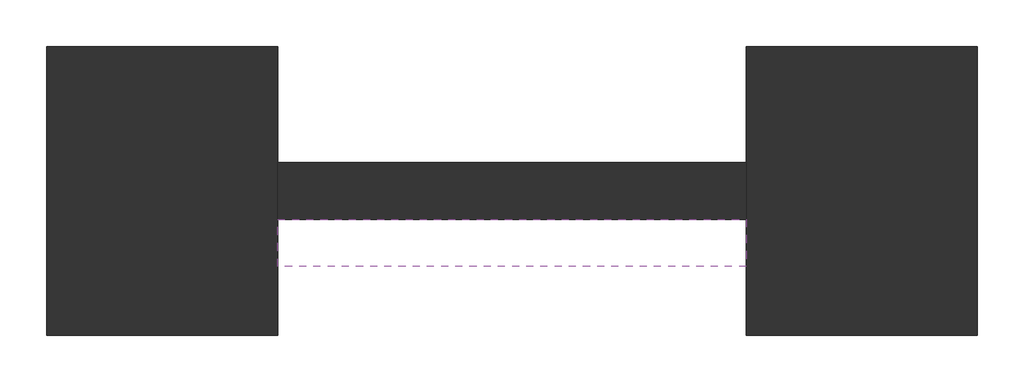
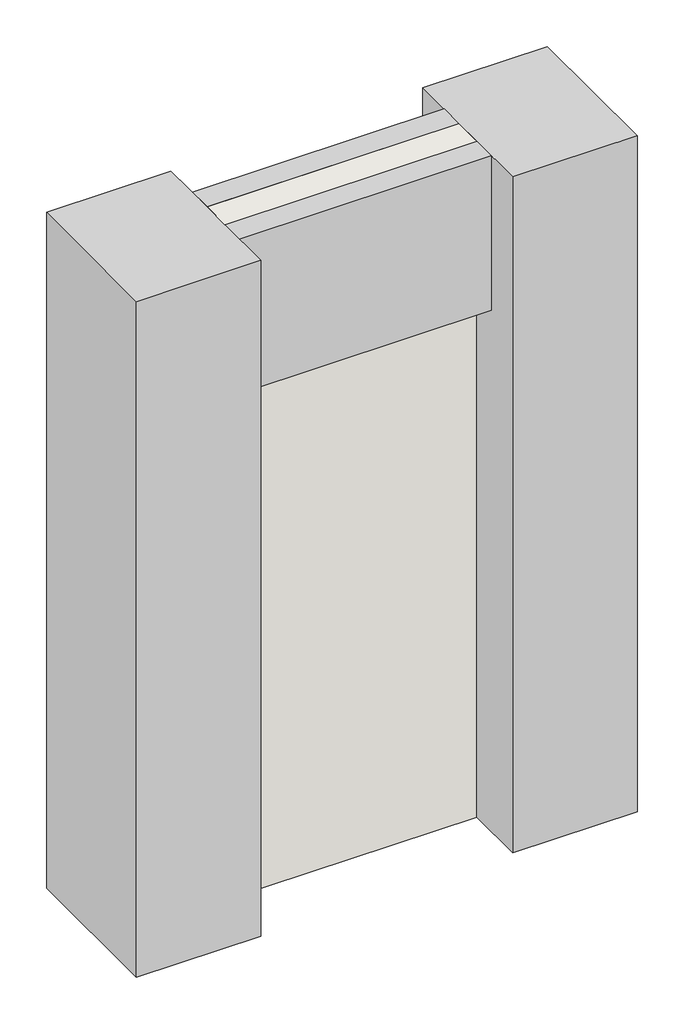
# One storey: 2 columns, 1 beam, 1 wall.
"""IFC4 building model written with IfcOpenShell, lengths in millimetres."""

from ifc_helpers import new_model, si_unit, frame, origin, place, context, project, spatial, polyline, outline, extrude, faceted_brep, element, save

model = new_model("IFC4")

# Units and contexts
model_context = context("Model", 3, world=origin())
ifc_project = project(units=[si_unit("LENGTHUNIT", "METRE", prefix="MILLI")], contexts=[model_context])

# Site, building, storey
site = spatial("IfcSite", under=ifc_project)
building = spatial("IfcBuilding", under=site)
storey = spatial("IfcBuildingStorey", under=building, Name="樓層 1", Elevation=0.0)

# Beam
placement = place(None, origin())
element("IfcBeam", 1, ObjectType="混凝土樑-矩形 : 40 x 80cm", at=placement, inside=storey, context=model_context, shape_type="SweptSolid", body=[
    extrude(outline(polyline([(-1820.5725669, 2717.8952183), (-586.8651877, 2717.8952183), (-586.8651877, 2592.8952183), (-1820.5725669, 2592.8952183), (-1820.5725669, 2717.8952183)])), frame((0.0, 0.0, 2700.0), z_axis=(0.0, 0.0, 1.0), x_axis=(1.0, 0.0, 0.0)), (0.0, 0.0, 1.0), 800.0),
    extrude(outline(polyline([(-586.8651877, 2317.8952183), (-1820.5725669, 2317.8952183), (-1820.5725669, 2442.8952183), (-586.8651877, 2442.8952183), (-586.8651877, 2317.8952183)])), frame((0.0, 0.0, 2700.0), z_axis=(0.0, 0.0, 1.0), x_axis=(1.0, 0.0, 0.0)), (0.0, 0.0, 1.0), 800.0),
])

# Columns
element("IfcColumn", 2, ObjectType="Concrete-Rectangular-Column : 24 x 30", at=placement, inside=storey, context=model_context, shape_type="Brep", body=[
    faceted_brep([(-1820.5725669, 2898.8952183, 0.0), (-1820.5725669, 2592.8952183, 0.0), (-1820.5725669, 2442.8952183, 0.0), (-1820.5725669, 2136.8952183, 0.0), (-2430.1725669, 2136.8952183, 0.0), (-2430.1725669, 2898.8952183, 0.0), (-1820.5725669, 2898.8952183, 3500.0), (-1820.5725669, 2592.8952183, 3500.0), (-1820.5725669, 2442.8952183, 3500.0), (-1820.5725669, 2136.8952183, 3500.0), (-2430.1725669, 2136.8952183, 3500.0), (-2430.1725669, 2898.8952183, 3500.0)], [[[0, 1, 2, 3, 4, 5]], [[6, 7, 8, 9, 3, 2, 1, 0]], [[9, 10, 4, 3]], [[10, 11, 5, 4]], [[11, 6, 0, 5]], [[6, 11, 10, 9, 8, 7]]]),
])
element("IfcColumn", 3, ObjectType="Concrete-Rectangular-Column : 24 x 30", at=placement, inside=storey, context=model_context, shape_type="Brep", body=[
    faceted_brep([(22.7348123, 2898.8952183, 0.0), (22.7348123, 2136.8952183, 0.0), (-586.8651877, 2136.8952183, 0.0), (-586.8651877, 2442.8952183, 0.0), (-586.8651877, 2592.8952183, 0.0), (-586.8651877, 2898.8952183, 0.0), (22.7348123, 2898.8952183, 3500.0), (22.7348123, 2136.8952183, 3500.0), (-586.8651877, 2136.8952183, 3500.0), (-586.8651877, 2442.8952183, 3500.0), (-586.8651877, 2592.8952183, 3500.0), (-586.8651877, 2898.8952183, 3500.0)], [[[0, 1, 2, 3, 4, 5]], [[6, 7, 1, 0]], [[7, 8, 2, 1]], [[8, 9, 10, 11, 5, 4, 3, 2]], [[11, 6, 0, 5]], [[6, 11, 10, 9, 8, 7]]]),
])

# Wall
element("IfcWall", 4, ObjectType="RC 牆 15cm", at=placement, inside=storey, context=model_context, shape_type="Brep", body=[
    faceted_brep([(-1820.5725669, 2442.8952183, 0.0), (-586.8651877, 2442.8952183, 0.0), (-586.8651877, 2442.8952183, 2700.0), (-586.8651877, 2442.8952183, 3500.0), (-1820.5725669, 2442.8952183, 3500.0), (-1820.5725669, 2442.8952183, 2700.0), (-1820.5725669, 2592.8952183, 0.0), (-1820.5725669, 2592.8952183, 2700.0), (-1820.5725669, 2592.8952183, 3500.0), (-586.8651877, 2592.8952183, 3500.0), (-586.8651877, 2592.8952183, 2700.0), (-586.8651877, 2592.8952183, 0.0)], [[[0, 1, 2, 3, 4, 5]], [[6, 7, 8, 9, 10, 11]], [[1, 0, 6, 11]], [[3, 2, 1, 11, 10, 9]], [[4, 3, 9, 8]], [[0, 5, 4, 8, 7, 6]]]),
])

save(model, "model.ifc")
